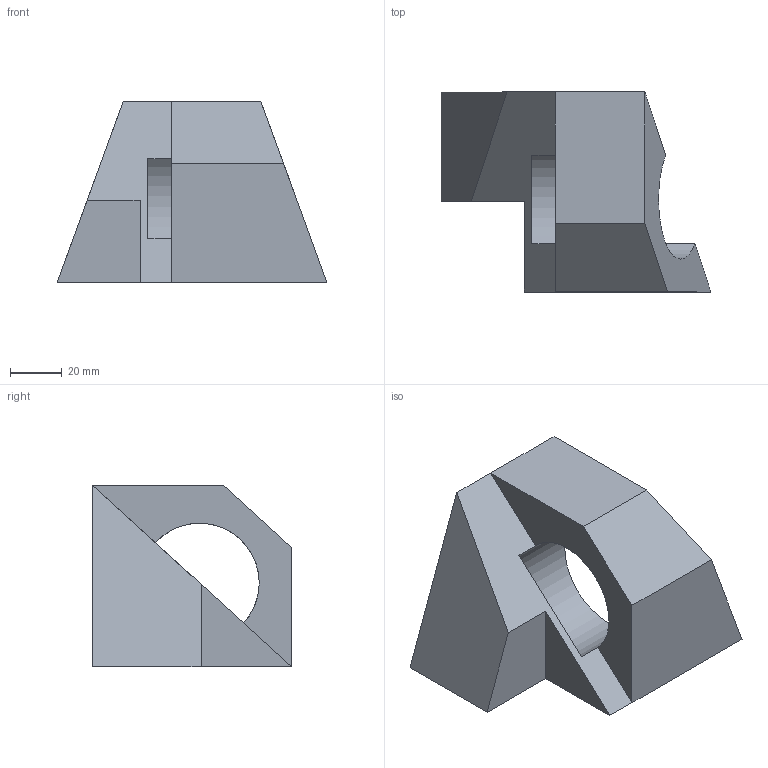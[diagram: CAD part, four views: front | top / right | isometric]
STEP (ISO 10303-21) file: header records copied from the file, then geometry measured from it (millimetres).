
FILE_DESCRIPTION(/* description */ (''),/* implementation_level */ '2;1');
FILE_NAME(/* name */ 'C:/Users/USER/Desktop/720709R1012/720709R1012.step',/* time_stamp */ '2022-07-15T12:06:41+09:00',/* author */ (''),/* organization */ (''),/* preprocessor_version */ 'ST-DEVELOPER v19',/* originating_system */ 'Autodesk Translation Framework v11.7.0.108',/* authorisation */ '');
FILE_SCHEMA (('AUTOMOTIVE_DESIGN { 1 0 10303 214 3 1 1 }'));
Length unit declared in the file: millimetre
Products named in the file (1): (저장되지 않음)
Bounding box: 104 x 77 x 70 mm (x, y, z)
Volume: 175060.6 mm3; surface area: 31394.6 mm2
Topology: 1 solids, 1 shells, 19 faces, 53 edges, 34 vertices
Faces by surface type: plane 18, cylinder 1
Full cylindrical faces by diameter (mm): 46 x1
Entity records: 638 total; most frequent: CARTESIAN_POINT 107, ORIENTED_EDGE 106, DIRECTION 99, EDGE_CURVE 53, LINE 47, VECTOR 47, VERTEX_POINT 34, AXIS2_PLACEMENT_3D 26
